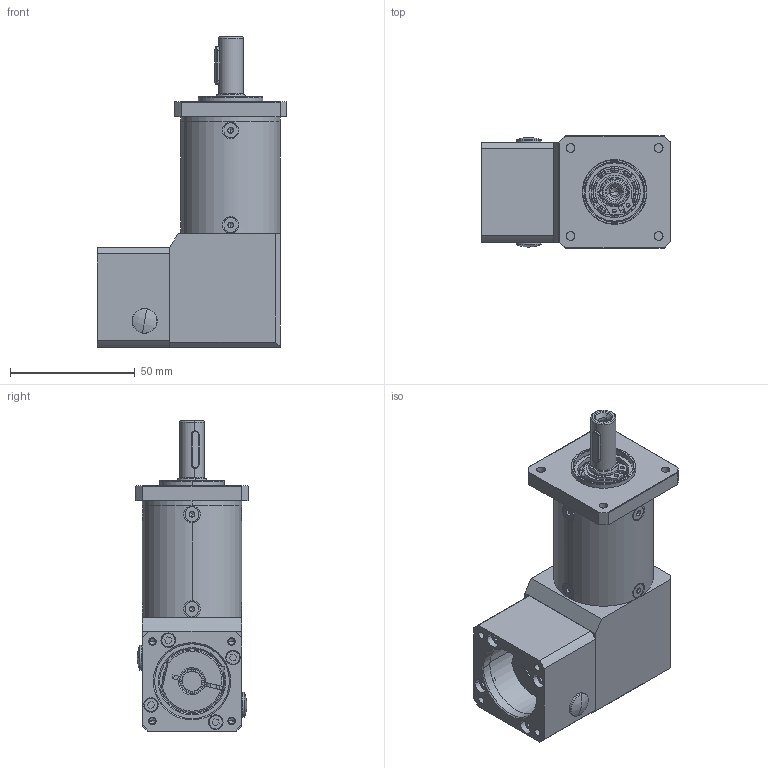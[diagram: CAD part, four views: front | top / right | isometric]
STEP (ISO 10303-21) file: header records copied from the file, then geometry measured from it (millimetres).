
FILE_DESCRIPTION (( 'STEP AP203' ), '1' );
FILE_NAME ('WPF40L2-i-P2-S2-8-25-30-45-M3.step', '2020-03-30T09:04:25', ( '个人用户' ), ( '微软中国' ), 'SwSTEP 2.0', 'SolidWorks 2018', '' );
FILE_SCHEMA (( 'CONFIG_CONTROL_DESIGN' ));
Length unit declared in the file: millimetre
Products named in the file (1): WPF40L2-i-P2-S2-8-25-30-45-M3
Bounding box: 76 x 45 x 124.5 mm (x, y, z)
Volume: 138873.8 mm3; surface area: 70505.9 mm2
Topology: 41 solids, 41 shells, 1437 faces, 3667 edges, 2307 vertices
Faces by surface type: cylinder 444, plane 355, cone 224, sphere 220, torus 194
Entity records: 51091 total; most frequent: CARTESIAN_POINT 16309, DIRECTION 7404, ORIENTED_EDGE 7266, EDGE_CURVE 3633, AXIS2_PLACEMENT_3D 3206, VERTEX_POINT 2307, CIRCLE 1768, EDGE_LOOP 1658
